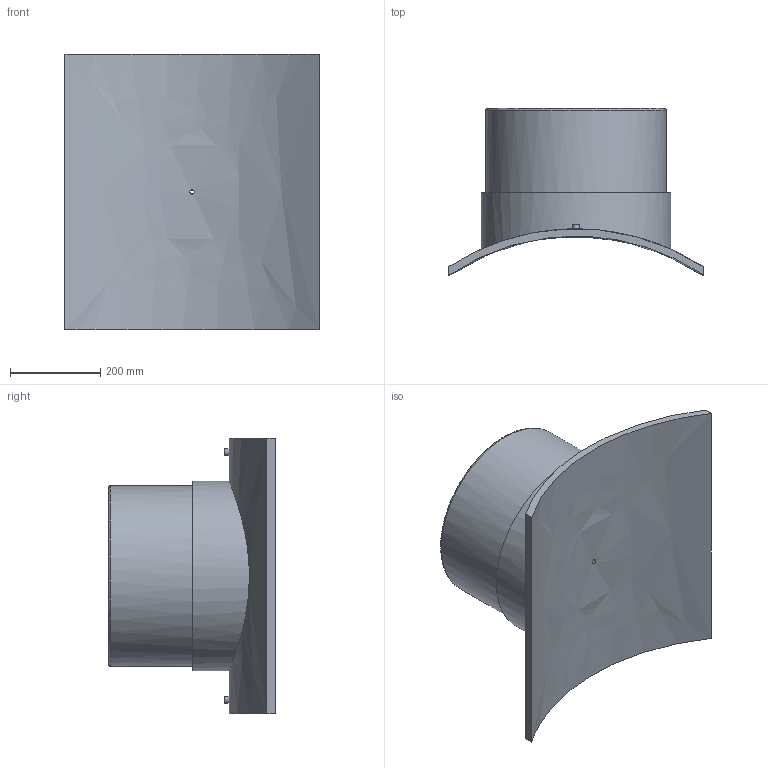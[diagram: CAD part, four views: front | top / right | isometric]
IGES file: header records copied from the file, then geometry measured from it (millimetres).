
Global section: file name: 4958031000400T; native system: Autodesk Inventor 2019; preprocessor: unknown; author: KIM; date: 20240404.114800; units: millimetre
Bounding box: 563 x 369.77 x 610 mm (x, y, z)
Volume: 19947978.2 mm3; surface area: 1427494.3 mm2
Topology: 1 solids, 1 shells, 29 faces, 60 edges, 43 vertices
Faces by surface type: bspline 29
